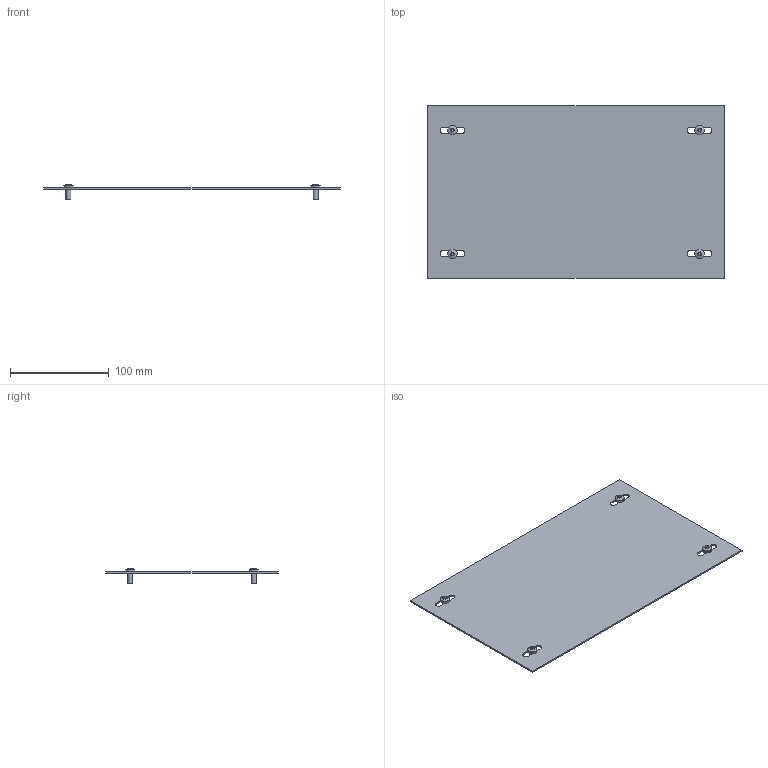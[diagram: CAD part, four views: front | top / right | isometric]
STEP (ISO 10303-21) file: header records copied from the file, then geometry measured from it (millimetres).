
FILE_DESCRIPTION(('Open CASCADE Model'),'2;1');
FILE_NAME('Open CASCADE Shape Model','2025-03-28T17:53:15',('Author'),( 'Open CASCADE'),'Open CASCADE STEP processor 7.8','Open CASCADE 7.8' ,'Unknown');
FILE_SCHEMA(('AUTOMOTIVE_DESIGN { 1 0 10303 214 1 1 1 1 }'));
Length unit declared in the file: millimetre
Products named in the file (3): Compound1; Solid1; Solid2
Assembly tree (5 placements, depth 2):
  Compound1
    Solid1
    Solid2  x4
Bounding box: 300 x 175 x 15.56 mm (x, y, z)
Volume: 79525.7 mm3; surface area: 107242.5 mm2
Topology: 5 solids, 5 shells, 86 faces, 180 edges, 108 vertices
Faces by surface type: plane 46, cylinder 16, torus 8, cone 8, sphere 4, bspline 4
Full cylindrical faces by diameter (mm): 5 x4, 9.5 x4
Entity records: 1508 total; most frequent: CARTESIAN_POINT 562, DIRECTION 190, ORIENTED_EDGE 178, EDGE_CURVE 89, AXIS2_PLACEMENT_3D 73, VERTEX_POINT 57, FACE_BOUND 48, EDGE_LOOP 48
